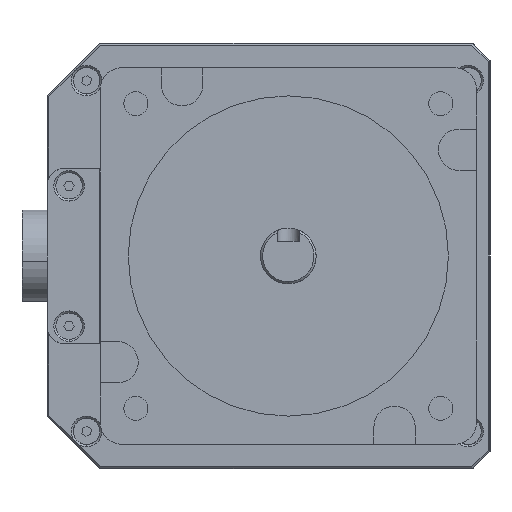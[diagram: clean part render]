
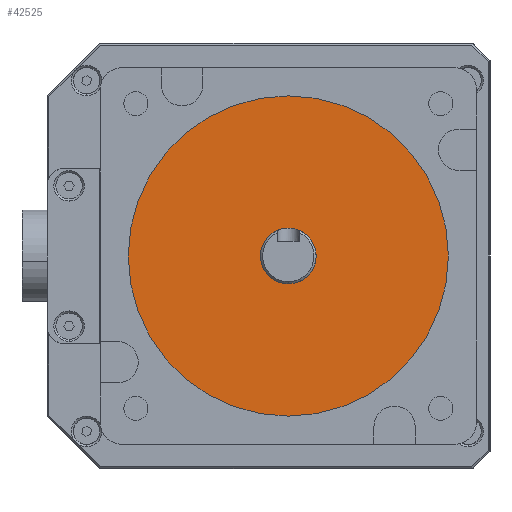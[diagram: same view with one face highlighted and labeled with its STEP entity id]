
A CAD part, left-side view. The second image highlights one B-rep face of the part: STEP entity #42525.
In plain terms, the highlighted planar face has unit normal (-1, 0, 0).
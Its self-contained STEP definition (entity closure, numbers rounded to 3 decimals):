
#5217 = DIRECTION ( 'NONE',  ( 0., 0., 1. ) ) ;
#5218 = DIRECTION ( 'NONE',  ( -1., 0., 0. ) ) ;
#5219 = AXIS2_PLACEMENT_3D ( 'NONE', #5226, #5218, #5217 ) ;
#5220 = CIRCLE ( 'NONE', #5219, 36.51 ) ;
#5226 = CARTESIAN_POINT ( 'NONE',  ( -176.902, 14.225, 14.114 ) ) ;
#9058 = DIRECTION ( 'NONE',  ( 0., 0., 1. ) ) ;
#9059 = DIRECTION ( 'NONE',  ( -1., 0., 0. ) ) ;
#9060 = CARTESIAN_POINT ( 'NONE',  ( -176.902, 14.225, 14.114 ) ) ;
#9061 = AXIS2_PLACEMENT_3D ( 'NONE', #9060, #9059, #9058 ) ;
#9063 = PLANE ( 'NONE',  #9061 ) ;
#9064 = FACE_BOUND ( 'NONE', #42615, .T. ) ;
#9094 = DIRECTION ( 'NONE',  ( 0., 0., 1. ) ) ;
#9095 = DIRECTION ( 'NONE',  ( -1., 0., 0. ) ) ;
#9096 = CARTESIAN_POINT ( 'NONE',  ( -176.902, 14.225, 14.114 ) ) ;
#9097 = AXIS2_PLACEMENT_3D ( 'NONE', #9096, #9095, #9094 ) ;
#9098 = FACE_OUTER_BOUND ( 'NONE', #42526, .T. ) ;
#9103 = CIRCLE ( 'NONE', #9097, 6.35 ) ;
#17458 = CARTESIAN_POINT ( 'NONE',  ( -176.902, 14.225, 7.764 ) ) ;
#17459 = DIRECTION ( 'NONE',  ( 0., 0., 1. ) ) ;
#17461 = DIRECTION ( 'NONE',  ( -1., 0., 0. ) ) ;
#17463 = CARTESIAN_POINT ( 'NONE',  ( -176.902, 14.225, 14.114 ) ) ;
#17465 = AXIS2_PLACEMENT_3D ( 'NONE', #17463, #17461, #17459 ) ;
#17467 = CIRCLE ( 'NONE', #17465, 6.35 ) ;
#17470 = CARTESIAN_POINT ( 'NONE',  ( -176.902, 14.225, 20.464 ) ) ;
#18135 = CARTESIAN_POINT ( 'NONE',  ( -176.902, 14.225, -22.396 ) ) ;
#18425 = CARTESIAN_POINT ( 'NONE',  ( -176.902, 14.225, 50.624 ) ) ;
#18427 = DIRECTION ( 'NONE',  ( 0., 0., 1. ) ) ;
#18430 = DIRECTION ( 'NONE',  ( -1., 0., 0. ) ) ;
#18432 = CARTESIAN_POINT ( 'NONE',  ( -176.902, 14.225, 14.114 ) ) ;
#18433 = AXIS2_PLACEMENT_3D ( 'NONE', #18432, #18430, #18427 ) ;
#18507 = CIRCLE ( 'NONE', #18433, 36.51 ) ;
#42524 = EDGE_CURVE ( 'NONE', #46701, #46698, #9103, .T. ) ;
#42525 = ADVANCED_FACE ( 'NONE', ( #9098, #9064 ), #9063, .T. ) ;
#42526 = EDGE_LOOP ( 'NONE', ( #42612, #42614 ) ) ;
#42612 = ORIENTED_EDGE ( 'NONE', *, *, #42613, .T. ) ;
#42613 = EDGE_CURVE ( 'NONE', #46793, #46889, #5220, .T. ) ;
#42614 = ORIENTED_EDGE ( 'NONE', *, *, #46888, .T. ) ;
#42615 = EDGE_LOOP ( 'NONE', ( #42616, #42617 ) ) ;
#42616 = ORIENTED_EDGE ( 'NONE', *, *, #42524, .F. ) ;
#42617 = ORIENTED_EDGE ( 'NONE', *, *, #46700, .F. ) ;
#46698 = VERTEX_POINT ( 'NONE', #17470 ) ;
#46700 = EDGE_CURVE ( 'NONE', #46698, #46701, #17467, .T. ) ;
#46701 = VERTEX_POINT ( 'NONE', #17458 ) ;
#46793 = VERTEX_POINT ( 'NONE', #18135 ) ;
#46888 = EDGE_CURVE ( 'NONE', #46889, #46793, #18507, .T. ) ;
#46889 = VERTEX_POINT ( 'NONE', #18425 ) ;
